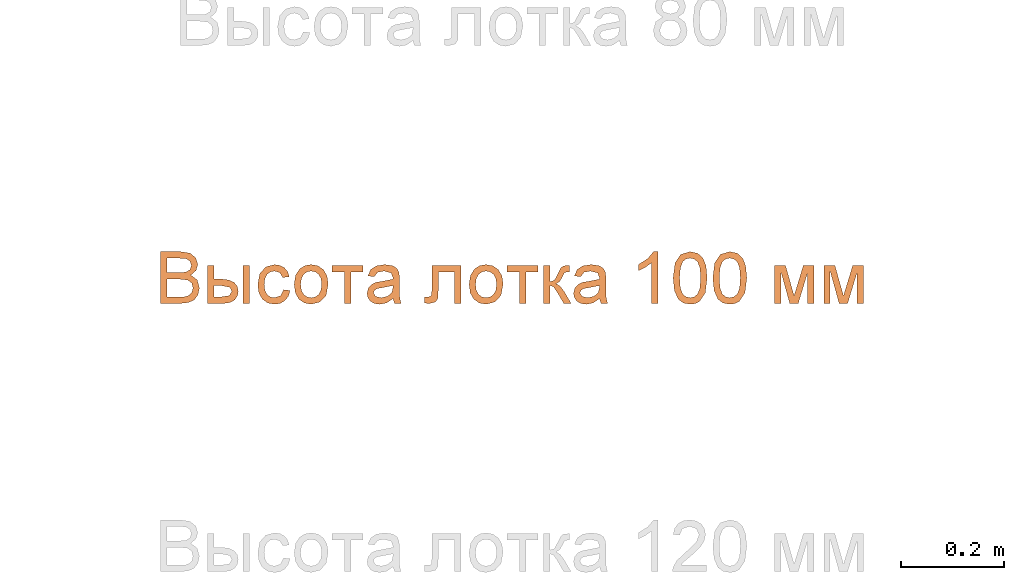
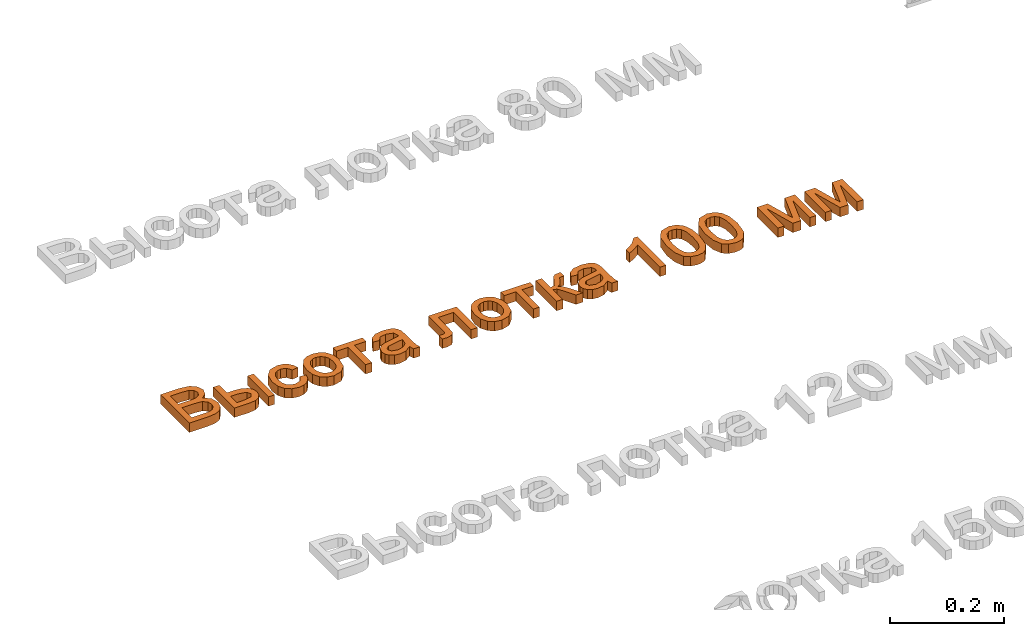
# One storey, part 19 of 71: 1 proxy.
"""IFC2X3 building model written with IfcOpenShell, lengths in millimetres."""

from ifc_helpers import new_model, entity, si_unit, converted_unit, derived_unit, direction, frame, frame_2d, origin, place, context, subcontext, project, spatial, polyline, rectangle, outline, extrude, element, save


model = new_model("IFC2X3")

# Units and contexts
model_context = context("Model", 3, precision=0.01, world=origin(), true_north=direction((6.12303176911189e-17, 1.0)))
body_context = subcontext(model_context, "Body", "Model", "MODEL_VIEW")
ifc_project = project(units=[si_unit("LENGTHUNIT", "METRE", prefix="MILLI"), si_unit("AREAUNIT", "SQUARE_METRE"), si_unit("VOLUMEUNIT", "CUBIC_METRE"), converted_unit("PLANEANGLEUNIT", "DEGREE", entity("IfcRatioMeasure", 0.0174532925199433), si_unit("PLANEANGLEUNIT", "RADIAN"), dimensions=[0, 0, 0, 0, 0, 0, 0]), si_unit("MASSUNIT", "GRAM", prefix="KILO"), derived_unit("MASSDENSITYUNIT", [(si_unit("MASSUNIT", "GRAM", prefix="KILO"), 1), (si_unit("LENGTHUNIT", "METRE"), -3)]), si_unit("TIMEUNIT", "SECOND"), si_unit("FREQUENCYUNIT", "HERTZ"), si_unit("THERMODYNAMICTEMPERATUREUNIT", "DEGREE_CELSIUS"), derived_unit("THERMALTRANSMITTANCEUNIT", [(si_unit("MASSUNIT", "GRAM", prefix="KILO"), 1), (si_unit("THERMODYNAMICTEMPERATUREUNIT", "KELVIN"), -1), (si_unit("TIMEUNIT", "SECOND"), -3)]), derived_unit("VOLUMETRICFLOWRATEUNIT", [(si_unit("LENGTHUNIT", "METRE"), 3), (si_unit("TIMEUNIT", "SECOND"), -1)]), si_unit("ELECTRICCURRENTUNIT", "AMPERE"), si_unit("ELECTRICVOLTAGEUNIT", "VOLT"), si_unit("POWERUNIT", "WATT"), si_unit("FORCEUNIT", "NEWTON", prefix="KILO"), si_unit("ILLUMINANCEUNIT", "LUX"), si_unit("LUMINOUSFLUXUNIT", "LUMEN"), si_unit("LUMINOUSINTENSITYUNIT", "CANDELA"), derived_unit("USERDEFINED", [(si_unit("MASSUNIT", "GRAM", prefix="KILO"), -1), (si_unit("LENGTHUNIT", "METRE"), -2), (si_unit("TIMEUNIT", "SECOND"), 3), (si_unit("LUMINOUSFLUXUNIT", "LUMEN"), 1)]), derived_unit("LINEARVELOCITYUNIT", [(si_unit("LENGTHUNIT", "METRE"), 1), (si_unit("TIMEUNIT", "SECOND"), -1)]), si_unit("PRESSUREUNIT", "PASCAL"), derived_unit("USERDEFINED", [(si_unit("LENGTHUNIT", "METRE"), -2), (si_unit("MASSUNIT", "GRAM", prefix="KILO"), 1), (si_unit("TIMEUNIT", "SECOND"), -2)])], contexts=[model_context])

# Site, building, storey
site_placement = place(None, origin())
site = spatial("IfcSite", under=ifc_project, at=site_placement, Name="Default", CompositionType="ELEMENT")
building_placement = place(site_placement, origin())
building = spatial("IfcBuilding", under=site, at=building_placement, Name="Наименование здания", CompositionType="ELEMENT")
storey_placement = place(building_placement, origin())
storey = spatial("IfcBuildingStorey", under=building, at=storey_placement, Name="Этаж 01", CompositionType="ELEMENT", Elevation=0.0)

# Proxy
proxy_placement = place(storey_placement, origin())
element("IfcBuildingElementProxy", 1, at=proxy_placement, inside=storey, Name="Текст модели:100 мм Arial", ObjectType="Текст модели:100 мм Arial", context=body_context, shape_type="SweptSolid", body=[
    extrude(outline(polyline([(-52.8068326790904, -48.6909338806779), (-14.7678343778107, -48.6909338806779), (1.33313427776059, -46.961888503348), (12.2592295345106, -41.8605915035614), (19.5800812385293, -32.2466086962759), (22.5353999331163, -18.745339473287), (18.206655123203, -3.12261741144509), (5.83355735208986, 6.24611073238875), (16.0238886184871, 15.1365922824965), (19.3961402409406, 26.8720279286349), (15.3862264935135, 39.7233722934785), (4.30071570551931, 48.8100575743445), (-14.4735287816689, 51.7653762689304), (-52.8068326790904, 51.7653762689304), (-52.8068326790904, -48.6909338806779)]), holes=[polyline([(-40.2497939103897, 10.9550002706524), (-40.2497939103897, 39.2083375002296), (-19.0597909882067, 39.2083375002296), (-2.92203413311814, 37.8962250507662), (4.31297843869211, 33.0524454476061), (6.83910147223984, 24.8609396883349), (4.12903744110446, 16.6816966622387), (-3.92757825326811, 12.0341207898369), (-17.3184828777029, 10.9550002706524), (-40.2497939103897, 10.9550002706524)]), polyline([(-40.2497939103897, -36.1338951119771), (-40.2497939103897, -1.60203849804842), (-15.7243275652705, -1.60203849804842), (-0.211970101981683, -3.2820329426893), (7.57486546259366, -9.10683119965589), (9.97836116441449, -18.8679668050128), (7.93048472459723, -27.329252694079), (2.70656039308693, -32.908796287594), (-5.17837703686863, -35.6433857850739), (-14.4980542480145, -36.1338951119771), (-40.2497939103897, -36.1338951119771)])]), frame((5929.87567637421, -12417.8794073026, 0.0)), (0.0, 0.0, 1.0), 20.0),
    extrude(outline(polyline([(-42.39887158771, -34.5139341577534), (31.3737311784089, -34.5139341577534), (31.3737311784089, -3.73447389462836), (29.653882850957, 9.31613988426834), (24.4943378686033, 18.2526066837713), (16.9129030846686, 23.412151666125), (7.92738535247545, 25.1319999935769), (-1.9410491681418, 23.0810578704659), (-9.42438208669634, 16.928231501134), (-14.1424686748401, 6.98622058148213), (-15.7151642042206, -6.43227519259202), (-15.7151642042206, -21.9568953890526), (-42.39887158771, -21.9568953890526), (-42.39887158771, -34.5139341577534)]), holes=[polyline([(18.8166924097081, -21.9568953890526), (-3.15812543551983, -21.9568953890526), (-3.15812543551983, -7.41329384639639), (0.226388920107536, 8.88387853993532), (7.95191081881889, 12.5749612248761), (16.1802047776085, 7.5962915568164), (18.8166924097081, -9.05650009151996), (18.8166924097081, -21.9568953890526)])]), frame((6002.62130892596, -12435.1966100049, 0.0), z_axis=(0.0, 0.0, 1.0), x_axis=(0.0, -1.0, 0.0)), (0.0, 0.0, 1.0), 20.0),
    extrude(outline(polyline([(0.267683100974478, -20.7200562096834), (-4.02278247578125, -32.6253015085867), (7.51957889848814, -34.5647704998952), (18.024291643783, -32.5240986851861), (26.850014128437, -26.8719753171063), (33.3554047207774, -17.9770896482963), (37.2076783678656, -4.95154901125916), (35.3403176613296, 7.71415747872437), (27.6846262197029, 19.1676933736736), (14.1719076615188, 28.556722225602), (-6.16200624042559, 34.5864889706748), (-23.4110955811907, 30.2307841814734), (-35.1302422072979, 17.0254849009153), (-38.5714296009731, 6.8723113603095), (-38.3156698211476, -2.77330902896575), (-34.4593562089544, -11.5597521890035), (-27.0988821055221, -19.1353940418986), (-20.0099089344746, -8.65257858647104), (-25.7552259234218, 0.801697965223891), (-23.980662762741, 11.2483121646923), (-18.9208808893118, 17.7794646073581), (-11.8538304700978, 21.4126833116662), (-2.81100512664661, 21.531205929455), (8.17610151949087, 17.5182701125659), (18.0468481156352, 10.9639331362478), (23.3470531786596, 3.65828147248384), (24.6053297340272, -4.07586677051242), (22.3502908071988, -11.9156934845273), (13.5558525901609, -20.7200562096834), (0.267683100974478, -20.7200562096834)])), frame((6097.30288009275, -12430.2595425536, 0.0), z_axis=(0.0, 0.0, -1.0), x_axis=(-0.45310996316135, -0.891454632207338, 0.0)), (0.0, 0.0, -1.0), 20.0),
    extrude(outline(polyline([(-2.34029740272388, -31.6984909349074), (14.2731811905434, -31.6984909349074), (27.1869525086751, -26.5873672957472), (35.9909592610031, -17.1811275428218), (40.2751441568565, -4.29577920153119), (38.1491713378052, 13.1690451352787), (27.2514955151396, 26.6485362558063), (5.67797919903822, 33.7446283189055), (-10.1280544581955, 33.6081083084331), (-22.8059382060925, 28.390056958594), (-31.6389568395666, 18.9754531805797), (-35.9103951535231, 6.2492758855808), (-35.5406401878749, -5.97109031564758), (-30.8535887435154, -16.7835237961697), (-19.5870121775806, -26.5692340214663), (-2.34029740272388, -31.6984909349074)]), holes=[polyline([(-0.642949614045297, -19.2566729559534), (-11.6948097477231, -16.2599663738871), (-19.0989004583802, -10.8341828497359), (-22.9822632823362, -3.6735675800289), (-23.4719397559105, 4.52763423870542), (-20.7783225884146, 12.2046648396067), (-15.0781786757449, 18.0357050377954), (-6.5660093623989, 21.2863283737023), (4.56368400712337, 21.2221083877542), (15.8675929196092, 18.1905150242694), (23.3961896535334, 12.7474982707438), (27.3267847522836, 5.59272509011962), (27.8366887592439, -2.57413755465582), (25.1317228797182, -10.3331599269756), (19.4311586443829, -16.1672368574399), (10.8134498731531, -19.3753979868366), (-0.642949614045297, -19.2566729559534)])]), frame((6167.77778019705, -12427.6561924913, 0.0), z_axis=(0.0, 0.0, 1.0), x_axis=(0.137105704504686, -0.990556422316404, 0.0)), (0.0, 0.0, 1.0), 20.0),
    extrude(outline(polyline([(-24.7216700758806, -29.8229670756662), (-12.1646313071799, -29.8229670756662), (-12.1646313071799, -6.27851938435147), (49.0509326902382, -6.27851938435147), (49.0509326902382, 6.27851938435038), (-12.1646313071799, 6.27851938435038), (-12.1646313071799, 29.8229670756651), (-24.7216700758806, 29.8229670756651), (-24.7216700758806, -29.8229670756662)])), frame((6239.65333814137, -12417.5194084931, 0.0), z_axis=(0.0, 0.0, 1.0), x_axis=(0.0, -1.0, 0.0)), (0.0, 0.0, 1.0), 20.0),
    extrude(outline(polyline([(32.050823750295, 7.8826653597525), (41.9780345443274, 7.8826653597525), (45.9489188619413, 19.7953183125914), (35.1414436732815, 20.7608946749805), (14.2438893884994, 27.0545912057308), (-0.577126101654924, 31.99492970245), (-11.1945882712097, 34.8877809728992), (-20.4974705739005, 33.9299602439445), (-28.5323068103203, 27.5470739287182), (-35.4619652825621, 13.8157249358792), (-38.3044049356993, -2.69989645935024), (-34.9462156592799, -15.3493345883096), (-25.0306383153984, -24.3807697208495), (-19.5706723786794, -12.9644773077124), (-25.7868125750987, -4.50695904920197), (-24.0611841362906, 8.30922519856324), (-16.2279943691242, 20.3304570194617), (-6.33956174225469, 20.6794605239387), (-3.7104020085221, 19.7255176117), (-6.50243004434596, -2.30048133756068), (-8.14662433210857, -13.2049019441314), (-7.01817966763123, -22.8490321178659), (-2.17478658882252, -31.1204151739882), (6.48825595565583, -36.5416029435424), (15.0010331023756, -37.7020395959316), (22.9495879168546, -35.3200906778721), (29.6378522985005, -29.3899394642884), (34.3697581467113, -19.9057692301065), (36.2737661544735, -6.3605554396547), (32.050823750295, 7.8826653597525)]), holes=[polyline([(8.22551784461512, 15.824433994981), (11.5759514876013, 14.6300664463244), (20.1614376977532, 9.67421668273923), (24.4696920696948, -0.396473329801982), (23.302469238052, -13.3987927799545), (17.24919734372, -22.9498553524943), (9.62153186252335, -24.3497471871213), (5.58084684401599, -21.1932043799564), (3.98706417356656, -15.504447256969), (5.47226797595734, -4.61166010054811), (8.22551784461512, 15.824433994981)])]), frame((6309.9390961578, -12429.2391985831, 0.0), z_axis=(0.0, 0.0, 1.0), x_axis=(0.316227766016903, -0.948683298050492, 0.0)), (0.0, 0.0, 1.0), 20.0),
    extrude(outline(polyline([(-49.3689973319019, 12.5447760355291), (-49.3689973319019, -43.9618984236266), (24.3300290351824, -43.9618984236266), (24.3300290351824, -31.4048596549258), (-36.8119585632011, -31.4048596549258), (-36.8119585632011, -0.0122627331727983), (-1.61791435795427, -0.0122627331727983), (14.6179443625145, 0.833865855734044), (21.4728122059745, 5.48144172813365), (24.403605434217, 16.4688506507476), (23.7659433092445, 26.6714446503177), (11.8465666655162, 26.6714446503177), (11.8465666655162, 21.0551128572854), (11.0740144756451, 15.3774673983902), (8.62146784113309, 13.1088617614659), (-2.32915288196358, 12.5447760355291), (-49.3689973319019, 12.5447760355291)])), frame((6415.43961817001, -12442.1667357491, 0.0), z_axis=(0.0, 0.0, -1.0), x_axis=(0.0, -1.0, 0.0)), (0.0, 0.0, -1.0), 20.0),
    extrude(outline(polyline([(-2.34029740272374, -31.6984909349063), (14.2731811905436, -31.6984909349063), (27.1869525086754, -26.5873672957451), (35.9909592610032, -17.1811275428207), (40.2751441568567, -4.29577920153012), (38.1491713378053, 13.1690451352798), (27.2514955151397, 26.6485362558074), (5.67797919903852, 33.7446283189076), (-10.1280544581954, 33.6081083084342), (-22.8059382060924, 28.3900569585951), (-31.6389568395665, 18.9754531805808), (-35.910395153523, 6.24927588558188), (-35.5406401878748, -5.9710903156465), (-30.8535887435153, -16.7835237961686), (-19.5870121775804, -26.5692340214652), (-2.34029740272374, -31.6984909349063)]), holes=[polyline([(-0.642949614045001, -19.2566729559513), (-11.6948097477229, -16.2599663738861), (-19.0989004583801, -10.8341828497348), (-22.9822632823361, -3.67356758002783), (-23.4719397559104, 4.5276342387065), (-20.7783225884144, 12.2046648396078), (-15.0781786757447, 18.0357050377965), (-6.56600936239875, 21.2863283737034), (4.56368400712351, 21.2221083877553), (15.8675929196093, 18.1905150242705), (23.3961896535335, 12.7474982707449), (27.3267847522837, 5.59272509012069), (27.8366887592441, -2.57413755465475), (25.1317228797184, -10.3331599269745), (19.4311586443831, -16.1672368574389), (10.8134498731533, -19.3753979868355), (-0.642949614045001, -19.2566729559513)])]), frame((6506.81782695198, -12427.6561924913, 0.0), z_axis=(0.0, 0.0, 1.0), x_axis=(0.137105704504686, -0.990556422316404, 0.0)), (0.0, 0.0, 1.0), 20.0),
    extrude(outline(polyline([(-24.7216700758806, -29.8229670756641), (-12.1646313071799, -29.8229670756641), (-12.1646313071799, -6.27851938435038), (49.0509326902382, -6.27851938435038), (49.0509326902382, 6.27851938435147), (-12.1646313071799, 6.27851938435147), (-12.1646313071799, 29.8229670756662), (-24.7216700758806, 29.8229670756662), (-24.7216700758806, -29.8229670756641)])), frame((6578.6933848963, -12417.5194084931, 0.0), z_axis=(0.0, 0.0, 1.0), x_axis=(0.0, -1.0, 0.0)), (0.0, 0.0, 1.0), 20.0),
    extrude(outline(polyline([(-30.3295712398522, -29.5353037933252), (43.4430315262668, -29.5353037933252), (43.4430315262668, -16.9782650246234), (8.91117491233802, -16.9782650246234), (11.2288314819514, -10.2337617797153), (20.8060260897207, -3.61188586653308), (43.4430315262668, 9.55828956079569), (43.4430315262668, 23.8321109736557), (20.3155167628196, 10.3921554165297), (10.0209522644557, 2.61758258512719), (5.13425309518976, -5.30414304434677), (0.756457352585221, 1.79597946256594), (-8.18307513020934, 6.86048826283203), (-16.4481572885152, 11.1769703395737), (-17.7725324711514, 17.3083369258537), (-17.6989560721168, 20.69285128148), (-30.3295712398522, 20.69285128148), (-30.3295712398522, 18.2893555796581), (-29.3730780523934, 9.10456843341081), (-25.6819953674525, 4.05232236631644), (-14.338967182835, -1.67437402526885), (-1.19331722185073, -8.56603006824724), (1.06302568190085, -16.9782650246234), (-30.3295712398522, -16.9782650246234), (-30.3295712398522, -29.5353037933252)])), frame((6649.03906468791, -12423.127309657, 0.0), z_axis=(0.0, 0.0, 1.0), x_axis=(0.0, -1.0, 0.0)), (0.0, 0.0, 1.0), 20.0),
    extrude(rectangle(XDim=73.7726027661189, YDim=12.5570387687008, at=frame_2d((-1.08357767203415e-12, 0.0), x_axis=(1.0, 0.0))), frame((6043.44960738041, -12429.6840398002, 0.0), z_axis=(0.0, 0.0, 1.0), x_axis=(0.0, -1.0, 0.0)), (0.0, 0.0, 1.0), 20.0),
    extrude(outline(polyline([(32.050823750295, 7.8826653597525), (41.9780345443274, 7.8826653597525), (45.9489188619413, 19.7953183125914), (35.1414436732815, 20.7608946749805), (14.2438893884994, 27.0545912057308), (-0.577126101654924, 31.99492970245), (-11.1945882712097, 34.8877809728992), (-20.4974705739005, 33.9299602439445), (-28.5323068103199, 27.5470739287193), (-35.4619652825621, 13.8157249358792), (-38.3044049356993, -2.69989645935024), (-34.9462156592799, -15.3493345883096), (-25.0306383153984, -24.3807697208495), (-19.5706723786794, -12.9644773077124), (-25.7868125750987, -4.50695904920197), (-24.0611841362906, 8.30922519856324), (-16.2279943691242, 20.3304570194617), (-6.33956174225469, 20.6794605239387), (-3.7104020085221, 19.7255176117), (-6.50243004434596, -2.30048133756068), (-8.14662433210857, -13.2049019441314), (-7.01817966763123, -22.8490321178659), (-2.17478658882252, -31.1204151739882), (6.48825595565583, -36.5416029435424), (15.0010331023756, -37.7020395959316), (22.9495879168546, -35.3200906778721), (29.6378522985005, -29.3899394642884), (34.3697581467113, -19.9057692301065), (36.2737661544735, -6.3605554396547), (32.050823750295, 7.8826653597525)]), holes=[polyline([(8.22551784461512, 15.824433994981), (11.5759514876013, 14.6300664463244), (20.1614376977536, 9.67421668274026), (24.4696920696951, -0.396473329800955), (23.302469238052, -13.3987927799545), (17.24919734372, -22.9498553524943), (9.62153186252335, -24.3497471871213), (5.58084684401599, -21.1932043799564), (3.98706417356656, -15.504447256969), (5.47226797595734, -4.61166010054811), (8.22551784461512, 15.824433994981)])]), frame((6710.19470691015, -12429.2391985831, 0.0), z_axis=(0.0, 0.0, 1.0), x_axis=(0.316227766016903, -0.948683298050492, 0.0)), (0.0, 0.0, 1.0), 20.0),
    extrude(outline(polyline([(-63.8793021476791, -16.9184842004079), (36.5770080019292, -16.9184842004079), (36.5770080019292, -8.825080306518), (23.2106288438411, 2.34626961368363), (11.4629304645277, 20.7526321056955), (-0.407395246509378, 20.7526321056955), (5.93243780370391, 7.53340574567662), (14.405986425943, -4.36144543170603), (-63.8793021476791, -4.36144543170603), (-63.8793021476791, -16.9184842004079)])), frame((6823.90308499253, -12402.6910390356, 0.0), z_axis=(0.0, 0.0, 1.0), x_axis=(0.0, 1.0, 0.0)), (0.0, 0.0, 1.0), 20.0),
    extrude(outline(polyline([(-7.02884310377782, -33.349067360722), (17.5323805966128, -33.349067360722), (35.1984171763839, -27.6137612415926), (43.3439841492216, -18.487651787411), (47.0516941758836, -5.7515066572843), (46.7162020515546, 4.48638208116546), (43.4465778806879, 13.0955287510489), (27.9444305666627, 25.6659118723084), (-0.314338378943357, 32.2325535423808), (-24.0296505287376, 32.3678288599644), (-39.4143020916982, 28.0260881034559), (-49.7293680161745, 18.9002174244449), (-54.4436715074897, 4.63998875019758), (-50.8676582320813, -14.1301059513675), (-35.4058547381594, -26.7333390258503), (-7.02884310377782, -33.349067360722)]), holes=[polyline([(-5.77428774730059, -20.8548320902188), (-25.0157644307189, -17.3562860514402), (-36.7257089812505, -11.5717922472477), (-41.0962588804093, -4.77599682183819), (-41.9669219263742, 3.21464792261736), (-39.2244253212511, 11.2791292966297), (-32.8654063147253, 17.2229259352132), (-20.9698370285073, 20.2947501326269), (-1.61768958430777, 19.7433141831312), (17.851414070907, 16.2707701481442), (28.7803640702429, 10.7141596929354), (33.5546988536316, 3.61815959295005), (34.5599568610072, -4.47255337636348), (31.942123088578, -12.1923199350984), (25.8471825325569, -18.1754808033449), (14.0250679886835, -21.402747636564), (-5.77428774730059, -20.8548320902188)])]), frame((6904.53607383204, -12420.747164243, 0.0), z_axis=(0.0, 0.0, 1.0), x_axis=(0.101851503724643, -0.994799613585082, 0.0)), (0.0, 0.0, 1.0), 20.0),
    extrude(outline(polyline([(-7.02884310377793, -33.3490673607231), (17.5323805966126, -33.3490673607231), (35.1984171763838, -27.6137612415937), (43.3439841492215, -18.4876517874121), (47.0516941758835, -5.75150665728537), (46.7162020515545, 4.48638208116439), (43.4465778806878, 13.0955287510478), (27.9444305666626, 25.6659118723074), (-0.314338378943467, 32.2325535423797), (-24.0296505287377, 32.3678288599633), (-39.4143020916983, 28.0260881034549), (-49.7293680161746, 18.9002174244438), (-54.4436715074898, 4.6399887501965), (-50.8676582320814, -14.1301059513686), (-35.4058547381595, -26.7333390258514), (-7.02884310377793, -33.3490673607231)]), holes=[polyline([(-5.7742877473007, -20.8548320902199), (-25.015764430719, -17.3562860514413), (-36.7257089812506, -11.5717922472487), (-41.0962588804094, -4.77599682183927), (-41.9669219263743, 3.21464792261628), (-39.2244253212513, 11.2791292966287), (-32.8654063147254, 17.2229259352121), (-20.9698370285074, 20.2947501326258), (-1.61768958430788, 19.7433141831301), (17.8514140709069, 16.2707701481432), (28.7803640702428, 10.7141596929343), (33.5546988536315, 3.61815959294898), (34.5599568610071, -4.47255337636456), (31.9421230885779, -12.1923199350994), (25.8471825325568, -18.175480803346), (14.0250679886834, -21.4027476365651), (-5.7742877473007, -20.8548320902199)])]), frame((6981.44793629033, -12420.747164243, 0.0), z_axis=(0.0, 0.0, 1.0), x_axis=(0.101851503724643, -0.994799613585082, 0.0)), (0.0, 0.0, 1.0), 20.0),
    extrude(outline(polyline([(-40.5839870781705, -38.4502715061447), (33.1886156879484, -38.4502715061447), (33.1886156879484, -25.8932327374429), (-29.0570178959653, -25.8932327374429), (33.1886156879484, -8.6273044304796), (33.1886156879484, 7.85380895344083), (-26.2120637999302, 25.9045521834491), (33.1886156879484, 25.9045521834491), (33.1886156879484, 38.4615909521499), (-40.5839870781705, 38.4615909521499), (-40.5839870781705, 17.7620973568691), (18.4733358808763, -0.190544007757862), (-40.5839870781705, -16.8433356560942), (-40.5839870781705, -38.4502715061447)])), frame((7105.2985385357, -12433.3817254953, 0.0), z_axis=(0.0, 0.0, 1.0), x_axis=(0.0, -1.0, 0.0)), (0.0, 0.0, 1.0), 20.0),
    extrude(outline(polyline([(-40.5839870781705, -38.4502715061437), (33.1886156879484, -38.4502715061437), (33.1886156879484, -25.8932327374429), (-29.0570178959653, -25.8932327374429), (33.1886156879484, -8.62730443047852), (33.1886156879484, 7.85380895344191), (-26.2120637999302, 25.9045521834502), (33.1886156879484, 25.9045521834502), (33.1886156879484, 38.461590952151), (-40.5839870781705, 38.461590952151), (-40.5839870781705, 17.7620973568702), (18.4733358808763, -0.190544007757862), (-40.5839870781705, -16.8433356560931), (-40.5839870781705, -38.4502715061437)])), frame((7201.04595914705, -12433.3817254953, 0.0), z_axis=(0.0, 0.0, 1.0), x_axis=(0.0, -1.0, 0.0)), (0.0, 0.0, 1.0), 20.0),
])

save(model, "model.ifc")
